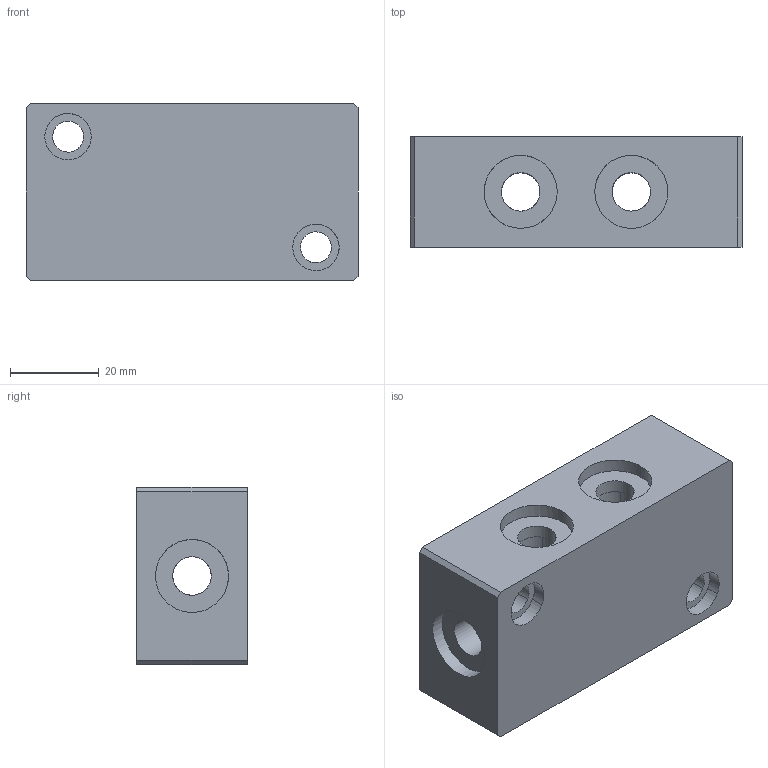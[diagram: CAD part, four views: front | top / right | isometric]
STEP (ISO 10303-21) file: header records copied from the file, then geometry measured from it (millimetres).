
FILE_DESCRIPTION(('CATIA V5 STEP Exchange'),'2;1');
FILE_NAME('W:\LIBRERIA TECAPRES®\FICHEROS CAD\BLOQUES DISTRIBUCION\BDF6.stp','2016-04-13T13:17:15+00:00',('none'),('none'),'CATIA Version 5 Release 17 (IN-10)','CATIA V5 STEP AP203','none');
FILE_SCHEMA(('CONFIG_CONTROL_DESIGN'));
Length unit declared in the file: millimetre
Products named in the file (1): BDF6
Bounding box: 75 x 25 x 40 mm (x, y, z)
Volume: 61158.9 mm3; surface area: 16487.8 mm2
Topology: 1 solids, 1 shells, 61 faces, 161 edges, 106 vertices
Faces by surface type: cylinder 43, plane 18
Entity records: 2784 total; most frequent: CARTESIAN_POINT 1390, ORIENTED_EDGE 322, DIRECTION 188, EDGE_CURVE 161, VERTEX_POINT 106, EDGE_LOOP 79, AXIS2_PLACEMENT_3D 74, VECTOR 68
